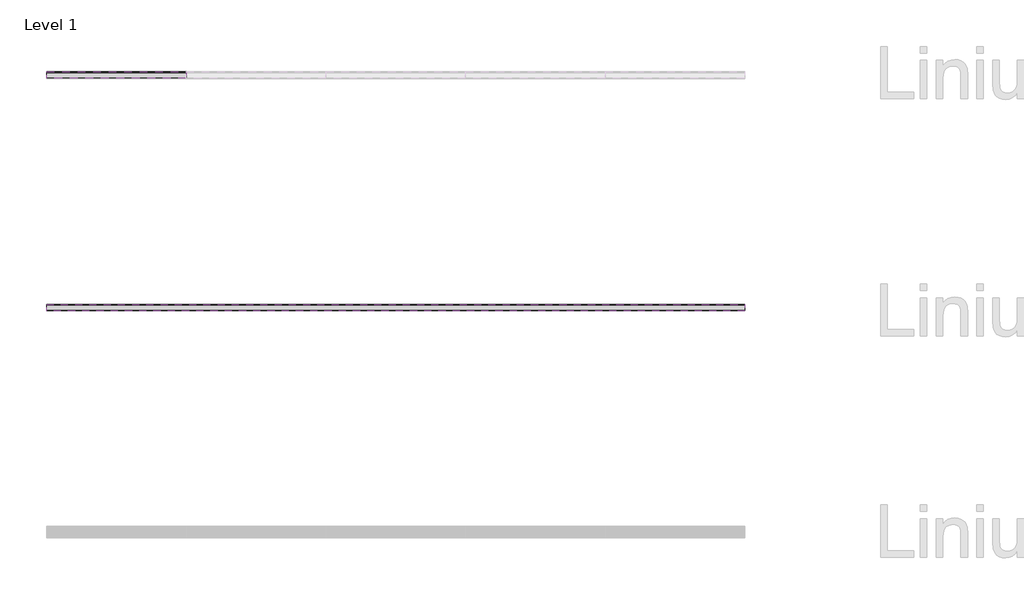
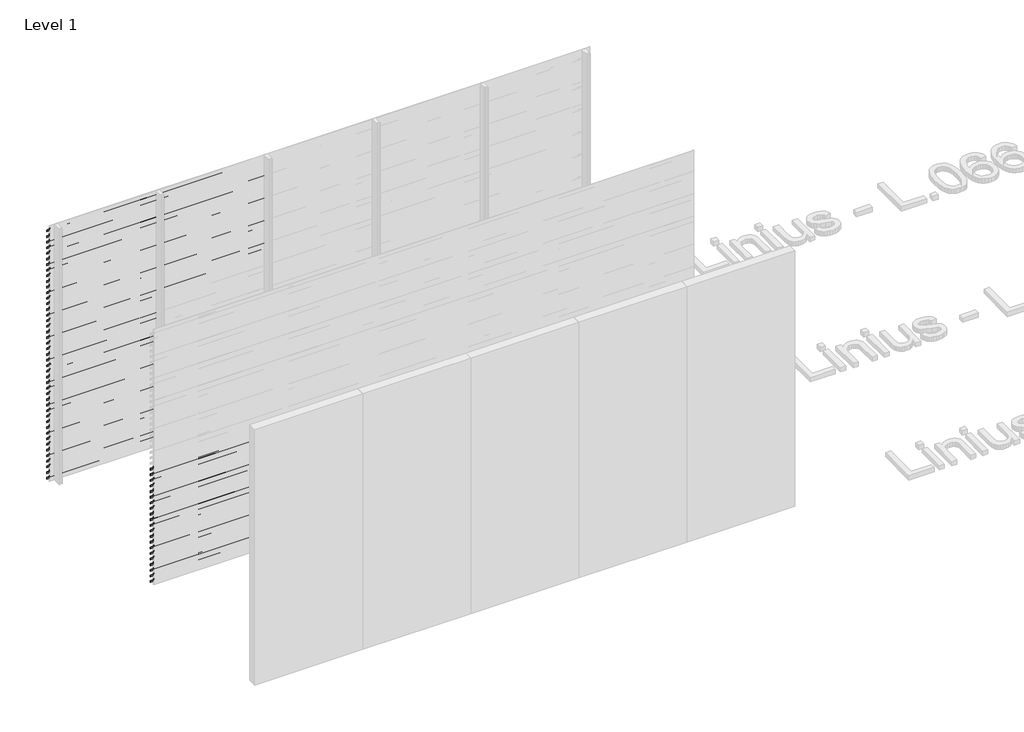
# One storey, part 80 of 540: 85 proxies.
"""IFC4 building model written with IfcOpenShell, lengths in millimetres."""

from ifc_helpers import new_model, si_unit, frame, origin, place, context, project, spatial, polyline, outline, extrude, element, save

model = new_model("IFC4")

# Units and contexts
model_context = context("Model", 3, world=origin())
ifc_project = project(units=[si_unit("LENGTHUNIT", "METRE", prefix="MILLI")], contexts=[model_context])

# Site, building, storey
site = spatial("IfcSite", under=ifc_project)
building = spatial("IfcBuilding", under=site)
storey = spatial("IfcBuildingStorey", under=building, Name="Level 1", Elevation=0.0)

# Proxies
placement = place(None, origin())
element("IfcBuildingElementProxy", 1, Name="Wall Sweeps", at=placement, inside=storey, context=model_context, shape_type="SweptSolid", body=[
    extrude(outline(polyline([(51581.0540136, 2913.5), (51581.0540136, 2893.5), (51579.8040136, 2894.2216933), (51579.8040136, 2912.7872415), (51526.0540136, 2950.3158044), (51526.0540136, 2970.0), (51527.3040136, 2970.0), (51527.3040136, 2951.0285629), (51581.0540136, 2913.5)])), frame((466.6208097, 0.0, 0.0), z_axis=(1.0, 0.0, 0.0), x_axis=(0.0, 1.0, 0.0)), (0.0, 0.0, 1.0), 1200.0000002),
])
element("IfcBuildingElementProxy", 2, Name="Wall Sweeps", at=placement, inside=storey, context=model_context, shape_type="SweptSolid", body=[
    extrude(outline(polyline([(51581.0540136, 2847.5), (51581.0540136, 2827.5), (51579.8040136, 2828.2216933), (51579.8040136, 2846.7872415), (51526.0540136, 2884.3158044), (51526.0540136, 2904.0), (51527.3040136, 2904.0), (51527.3040136, 2885.0285629), (51581.0540136, 2847.5)])), frame((466.6208097, 0.0, 0.0), z_axis=(1.0, 0.0, 0.0), x_axis=(0.0, 1.0, 0.0)), (0.0, 0.0, 1.0), 1200.0000002),
])
element("IfcBuildingElementProxy", 3, Name="Wall Sweeps", at=placement, inside=storey, context=model_context, shape_type="SweptSolid", body=[
    extrude(outline(polyline([(51581.0540136, 2781.5), (51581.0540136, 2761.5), (51579.8040136, 2762.2216933), (51579.8040136, 2780.7872415), (51526.0540136, 2818.3158044), (51526.0540136, 2838.0), (51527.3040136, 2838.0), (51527.3040136, 2819.0285629), (51581.0540136, 2781.5)])), frame((466.6208097, 0.0, 0.0), z_axis=(1.0, 0.0, 0.0), x_axis=(0.0, 1.0, 0.0)), (0.0, 0.0, 1.0), 1200.0000002),
])
element("IfcBuildingElementProxy", 4, Name="Wall Sweeps", at=placement, inside=storey, context=model_context, shape_type="SweptSolid", body=[
    extrude(outline(polyline([(51581.0540136, 2715.5), (51581.0540136, 2695.5), (51579.8040136, 2696.2216933), (51579.8040136, 2714.7872415), (51526.0540136, 2752.3158044), (51526.0540136, 2772.0), (51527.3040136, 2772.0), (51527.3040136, 2753.0285629), (51581.0540136, 2715.5)])), frame((466.6208097, 0.0, 0.0), z_axis=(1.0, 0.0, 0.0), x_axis=(0.0, 1.0, 0.0)), (0.0, 0.0, 1.0), 1200.0000002),
])
element("IfcBuildingElementProxy", 5, Name="Wall Sweeps", at=placement, inside=storey, context=model_context, shape_type="SweptSolid", body=[
    extrude(outline(polyline([(51581.0540136, 2649.5), (51581.0540136, 2629.5), (51579.8040136, 2630.2216933), (51579.8040136, 2648.7872415), (51526.0540136, 2686.3158044), (51526.0540136, 2706.0), (51527.3040136, 2706.0), (51527.3040136, 2687.0285629), (51581.0540136, 2649.5)])), frame((466.6208097, 0.0, 0.0), z_axis=(1.0, 0.0, 0.0), x_axis=(0.0, 1.0, 0.0)), (0.0, 0.0, 1.0), 1200.0000002),
])
element("IfcBuildingElementProxy", 6, Name="Wall Sweeps", at=placement, inside=storey, context=model_context, shape_type="SweptSolid", body=[
    extrude(outline(polyline([(51581.0540136, 2583.5), (51581.0540136, 2563.5), (51579.8040136, 2564.2216933), (51579.8040136, 2582.7872415), (51526.0540136, 2620.3158044), (51526.0540136, 2640.0), (51527.3040136, 2640.0), (51527.3040136, 2621.0285629), (51581.0540136, 2583.5)])), frame((466.6208097, 0.0, 0.0), z_axis=(1.0, 0.0, 0.0), x_axis=(0.0, 1.0, 0.0)), (0.0, 0.0, 1.0), 1200.0000002),
])
element("IfcBuildingElementProxy", 7, Name="Wall Sweeps", at=placement, inside=storey, context=model_context, shape_type="SweptSolid", body=[
    extrude(outline(polyline([(51581.0540136, 2517.5), (51581.0540136, 2497.5), (51579.8040136, 2498.2216933), (51579.8040136, 2516.7872415), (51526.0540136, 2554.3158044), (51526.0540136, 2574.0), (51527.3040136, 2574.0), (51527.3040136, 2555.0285629), (51581.0540136, 2517.5)])), frame((466.6208097, 0.0, 0.0), z_axis=(1.0, 0.0, 0.0), x_axis=(0.0, 1.0, 0.0)), (0.0, 0.0, 1.0), 1200.0000002),
])
element("IfcBuildingElementProxy", 8, Name="Wall Sweeps", at=placement, inside=storey, context=model_context, shape_type="SweptSolid", body=[
    extrude(outline(polyline([(51581.0540136, 2451.5), (51581.0540136, 2431.5), (51579.8040136, 2432.2216933), (51579.8040136, 2450.7872415), (51526.0540136, 2488.3158044), (51526.0540136, 2508.0), (51527.3040136, 2508.0), (51527.3040136, 2489.0285629), (51581.0540136, 2451.5)])), frame((466.6208097, 0.0, 0.0), z_axis=(1.0, 0.0, 0.0), x_axis=(0.0, 1.0, 0.0)), (0.0, 0.0, 1.0), 1200.0000002),
])
element("IfcBuildingElementProxy", 9, Name="Wall Sweeps", at=placement, inside=storey, context=model_context, shape_type="SweptSolid", body=[
    extrude(outline(polyline([(51581.0540136, 2385.5), (51581.0540136, 2365.5), (51579.8040136, 2366.2216933), (51579.8040136, 2384.7872415), (51526.0540136, 2422.3158044), (51526.0540136, 2442.0), (51527.3040136, 2442.0), (51527.3040136, 2423.0285629), (51581.0540136, 2385.5)])), frame((466.6208097, 0.0, 0.0), z_axis=(1.0, 0.0, 0.0), x_axis=(0.0, 1.0, 0.0)), (0.0, 0.0, 1.0), 1200.0000002),
])
element("IfcBuildingElementProxy", 10, Name="Wall Sweeps", at=placement, inside=storey, context=model_context, shape_type="SweptSolid", body=[
    extrude(outline(polyline([(51581.0540136, 2319.5), (51581.0540136, 2299.5), (51579.8040136, 2300.2216933), (51579.8040136, 2318.7872415), (51526.0540136, 2356.3158044), (51526.0540136, 2376.0), (51527.3040136, 2376.0), (51527.3040136, 2357.0285629), (51581.0540136, 2319.5)])), frame((466.6208097, 0.0, 0.0), z_axis=(1.0, 0.0, 0.0), x_axis=(0.0, 1.0, 0.0)), (0.0, 0.0, 1.0), 1200.0000002),
])
element("IfcBuildingElementProxy", 11, Name="Wall Sweeps", at=placement, inside=storey, context=model_context, shape_type="SweptSolid", body=[
    extrude(outline(polyline([(51581.0540136, 2253.5), (51581.0540136, 2233.5), (51579.8040136, 2234.2216933), (51579.8040136, 2252.7872415), (51526.0540136, 2290.3158044), (51526.0540136, 2310.0), (51527.3040136, 2310.0), (51527.3040136, 2291.0285629), (51581.0540136, 2253.5)])), frame((466.6208097, 0.0, 0.0), z_axis=(1.0, 0.0, 0.0), x_axis=(0.0, 1.0, 0.0)), (0.0, 0.0, 1.0), 1200.0000002),
])
element("IfcBuildingElementProxy", 12, Name="Wall Sweeps", at=placement, inside=storey, context=model_context, shape_type="SweptSolid", body=[
    extrude(outline(polyline([(51581.0540136, 2187.5), (51581.0540136, 2167.5), (51579.8040136, 2168.2216933), (51579.8040136, 2186.7872415), (51526.0540136, 2224.3158044), (51526.0540136, 2244.0), (51527.3040136, 2244.0), (51527.3040136, 2225.0285629), (51581.0540136, 2187.5)])), frame((466.6208097, 0.0, 0.0), z_axis=(1.0, 0.0, 0.0), x_axis=(0.0, 1.0, 0.0)), (0.0, 0.0, 1.0), 1200.0000002),
])
element("IfcBuildingElementProxy", 13, Name="Wall Sweeps", at=placement, inside=storey, context=model_context, shape_type="SweptSolid", body=[
    extrude(outline(polyline([(51581.0540136, 2121.5), (51581.0540136, 2101.5), (51579.8040136, 2102.2216933), (51579.8040136, 2120.7872415), (51526.0540136, 2158.3158044), (51526.0540136, 2178.0), (51527.3040136, 2178.0), (51527.3040136, 2159.0285629), (51581.0540136, 2121.5)])), frame((466.6208097, 0.0, 0.0), z_axis=(1.0, 0.0, 0.0), x_axis=(0.0, 1.0, 0.0)), (0.0, 0.0, 1.0), 1200.0000002),
])
element("IfcBuildingElementProxy", 14, Name="Wall Sweeps", at=placement, inside=storey, context=model_context, shape_type="SweptSolid", body=[
    extrude(outline(polyline([(51581.0540136, 2055.5), (51581.0540136, 2035.5), (51579.8040136, 2036.2216933), (51579.8040136, 2054.7872415), (51526.0540136, 2092.3158044), (51526.0540136, 2112.0), (51527.3040136, 2112.0), (51527.3040136, 2093.0285629), (51581.0540136, 2055.5)])), frame((466.6208097, 0.0, 0.0), z_axis=(1.0, 0.0, 0.0), x_axis=(0.0, 1.0, 0.0)), (0.0, 0.0, 1.0), 1200.0000002),
])
element("IfcBuildingElementProxy", 15, Name="Wall Sweeps", at=placement, inside=storey, context=model_context, shape_type="SweptSolid", body=[
    extrude(outline(polyline([(51581.0540136, 1989.5), (51581.0540136, 1969.5), (51579.8040136, 1970.2216933), (51579.8040136, 1988.7872415), (51526.0540136, 2026.3158044), (51526.0540136, 2046.0), (51527.3040136, 2046.0), (51527.3040136, 2027.0285629), (51581.0540136, 1989.5)])), frame((466.6208097, 0.0, 0.0), z_axis=(1.0, 0.0, 0.0), x_axis=(0.0, 1.0, 0.0)), (0.0, 0.0, 1.0), 1200.0000002),
])
element("IfcBuildingElementProxy", 16, Name="Wall Sweeps", at=placement, inside=storey, context=model_context, shape_type="SweptSolid", body=[
    extrude(outline(polyline([(51581.0540136, 1923.5), (51581.0540136, 1903.5), (51579.8040136, 1904.2216933), (51579.8040136, 1922.7872415), (51526.0540136, 1960.3158044), (51526.0540136, 1980.0), (51527.3040136, 1980.0), (51527.3040136, 1961.0285629), (51581.0540136, 1923.5)])), frame((466.6208097, 0.0, 0.0), z_axis=(1.0, 0.0, 0.0), x_axis=(0.0, 1.0, 0.0)), (0.0, 0.0, 1.0), 1200.0000002),
])
element("IfcBuildingElementProxy", 17, Name="Wall Sweeps", at=placement, inside=storey, context=model_context, shape_type="SweptSolid", body=[
    extrude(outline(polyline([(51581.0540136, 1857.5), (51581.0540136, 1837.5), (51579.8040136, 1838.2216933), (51579.8040136, 1856.7872415), (51526.0540136, 1894.3158044), (51526.0540136, 1914.0), (51527.3040136, 1914.0), (51527.3040136, 1895.0285629), (51581.0540136, 1857.5)])), frame((466.6208097, 0.0, 0.0), z_axis=(1.0, 0.0, 0.0), x_axis=(0.0, 1.0, 0.0)), (0.0, 0.0, 1.0), 1200.0000002),
])
element("IfcBuildingElementProxy", 18, Name="Wall Sweeps", at=placement, inside=storey, context=model_context, shape_type="SweptSolid", body=[
    extrude(outline(polyline([(51581.0540136, 1791.5), (51581.0540136, 1771.5), (51579.8040136, 1772.2216933), (51579.8040136, 1790.7872415), (51526.0540136, 1828.3158044), (51526.0540136, 1848.0), (51527.3040136, 1848.0), (51527.3040136, 1829.0285629), (51581.0540136, 1791.5)])), frame((466.6208097, 0.0, 0.0), z_axis=(1.0, 0.0, 0.0), x_axis=(0.0, 1.0, 0.0)), (0.0, 0.0, 1.0), 1200.0000002),
])
element("IfcBuildingElementProxy", 19, Name="Wall Sweeps", at=placement, inside=storey, context=model_context, shape_type="SweptSolid", body=[
    extrude(outline(polyline([(51581.0540136, 1725.5), (51581.0540136, 1705.5), (51579.8040136, 1706.2216933), (51579.8040136, 1724.7872415), (51526.0540136, 1762.3158044), (51526.0540136, 1782.0), (51527.3040136, 1782.0), (51527.3040136, 1763.0285629), (51581.0540136, 1725.5)])), frame((466.6208097, 0.0, 0.0), z_axis=(1.0, 0.0, 0.0), x_axis=(0.0, 1.0, 0.0)), (0.0, 0.0, 1.0), 1200.0000002),
])
element("IfcBuildingElementProxy", 20, Name="Wall Sweeps", at=placement, inside=storey, context=model_context, shape_type="SweptSolid", body=[
    extrude(outline(polyline([(51581.0540136, 1659.5), (51581.0540136, 1639.5), (51579.8040136, 1640.2216933), (51579.8040136, 1658.7872415), (51526.0540136, 1696.3158044), (51526.0540136, 1716.0), (51527.3040136, 1716.0), (51527.3040136, 1697.0285629), (51581.0540136, 1659.5)])), frame((466.6208097, 0.0, 0.0), z_axis=(1.0, 0.0, 0.0), x_axis=(0.0, 1.0, 0.0)), (0.0, 0.0, 1.0), 1200.0000002),
])
element("IfcBuildingElementProxy", 21, Name="Wall Sweeps", at=placement, inside=storey, context=model_context, shape_type="SweptSolid", body=[
    extrude(outline(polyline([(51581.0540136, 1593.5), (51581.0540136, 1573.5), (51579.8040136, 1574.2216933), (51579.8040136, 1592.7872415), (51526.0540136, 1630.3158044), (51526.0540136, 1650.0), (51527.3040136, 1650.0), (51527.3040136, 1631.0285629), (51581.0540136, 1593.5)])), frame((466.6208097, 0.0, 0.0), z_axis=(1.0, 0.0, 0.0), x_axis=(0.0, 1.0, 0.0)), (0.0, 0.0, 1.0), 1200.0000002),
])
element("IfcBuildingElementProxy", 22, Name="Wall Sweeps", at=placement, inside=storey, context=model_context, shape_type="SweptSolid", body=[
    extrude(outline(polyline([(51581.0540136, 1527.5), (51581.0540136, 1507.5), (51579.8040136, 1508.2216933), (51579.8040136, 1526.7872415), (51526.0540136, 1564.3158044), (51526.0540136, 1584.0), (51527.3040136, 1584.0), (51527.3040136, 1565.0285629), (51581.0540136, 1527.5)])), frame((466.6208097, 0.0, 0.0), z_axis=(1.0, 0.0, 0.0), x_axis=(0.0, 1.0, 0.0)), (0.0, 0.0, 1.0), 1200.0000002),
])
element("IfcBuildingElementProxy", 23, Name="Wall Sweeps", at=placement, inside=storey, context=model_context, shape_type="SweptSolid", body=[
    extrude(outline(polyline([(51581.0540136, 1461.5), (51581.0540136, 1441.5), (51579.8040136, 1442.2216933), (51579.8040136, 1460.7872415), (51526.0540136, 1498.3158044), (51526.0540136, 1518.0), (51527.3040136, 1518.0), (51527.3040136, 1499.0285629), (51581.0540136, 1461.5)])), frame((466.6208097, 0.0, 0.0), z_axis=(1.0, 0.0, 0.0), x_axis=(0.0, 1.0, 0.0)), (0.0, 0.0, 1.0), 1200.0000002),
])
element("IfcBuildingElementProxy", 24, Name="Wall Sweeps", at=placement, inside=storey, context=model_context, shape_type="SweptSolid", body=[
    extrude(outline(polyline([(51581.0540136, 1395.5), (51581.0540136, 1375.5), (51579.8040136, 1376.2216933), (51579.8040136, 1394.7872415), (51526.0540136, 1432.3158044), (51526.0540136, 1452.0), (51527.3040136, 1452.0), (51527.3040136, 1433.0285629), (51581.0540136, 1395.5)])), frame((466.6208097, 0.0, 0.0), z_axis=(1.0, 0.0, 0.0), x_axis=(0.0, 1.0, 0.0)), (0.0, 0.0, 1.0), 1200.0000002),
])
element("IfcBuildingElementProxy", 25, Name="Wall Sweeps", at=placement, inside=storey, context=model_context, shape_type="SweptSolid", body=[
    extrude(outline(polyline([(51581.0540136, 1329.5), (51581.0540136, 1309.5), (51579.8040136, 1310.2216933), (51579.8040136, 1328.7872415), (51526.0540136, 1366.3158044), (51526.0540136, 1386.0), (51527.3040136, 1386.0), (51527.3040136, 1367.0285629), (51581.0540136, 1329.5)])), frame((466.6208097, 0.0, 0.0), z_axis=(1.0, 0.0, 0.0), x_axis=(0.0, 1.0, 0.0)), (0.0, 0.0, 1.0), 1200.0000002),
])
element("IfcBuildingElementProxy", 26, Name="Wall Sweeps", at=placement, inside=storey, context=model_context, shape_type="SweptSolid", body=[
    extrude(outline(polyline([(51581.0540136, 1263.5), (51581.0540136, 1243.5), (51579.8040136, 1244.2216933), (51579.8040136, 1262.7872415), (51526.0540136, 1300.3158044), (51526.0540136, 1320.0), (51527.3040136, 1320.0), (51527.3040136, 1301.0285629), (51581.0540136, 1263.5)])), frame((466.6208097, 0.0, 0.0), z_axis=(1.0, 0.0, 0.0), x_axis=(0.0, 1.0, 0.0)), (0.0, 0.0, 1.0), 1200.0000002),
])
element("IfcBuildingElementProxy", 27, Name="Wall Sweeps", at=placement, inside=storey, context=model_context, shape_type="SweptSolid", body=[
    extrude(outline(polyline([(51581.0540136, 1197.5), (51581.0540136, 1177.5), (51579.8040136, 1178.2216933), (51579.8040136, 1196.7872415), (51526.0540136, 1234.3158044), (51526.0540136, 1254.0), (51527.3040136, 1254.0), (51527.3040136, 1235.0285629), (51581.0540136, 1197.5)])), frame((466.6208097, 0.0, 0.0), z_axis=(1.0, 0.0, 0.0), x_axis=(0.0, 1.0, 0.0)), (0.0, 0.0, 1.0), 1200.0000002),
])
element("IfcBuildingElementProxy", 28, Name="Wall Sweeps", at=placement, inside=storey, context=model_context, shape_type="SweptSolid", body=[
    extrude(outline(polyline([(51581.0540136, 1131.5), (51581.0540136, 1111.5), (51579.8040136, 1112.2216933), (51579.8040136, 1130.7872415), (51526.0540136, 1168.3158044), (51526.0540136, 1188.0), (51527.3040136, 1188.0), (51527.3040136, 1169.0285629), (51581.0540136, 1131.5)])), frame((466.6208097, 0.0, 0.0), z_axis=(1.0, 0.0, 0.0), x_axis=(0.0, 1.0, 0.0)), (0.0, 0.0, 1.0), 1200.0000002),
])
element("IfcBuildingElementProxy", 29, Name="Wall Sweeps", at=placement, inside=storey, context=model_context, shape_type="SweptSolid", body=[
    extrude(outline(polyline([(51581.0540136, 1065.5), (51581.0540136, 1045.5), (51579.8040136, 1046.2216933), (51579.8040136, 1064.7872415), (51526.0540136, 1102.3158044), (51526.0540136, 1122.0), (51527.3040136, 1122.0), (51527.3040136, 1103.0285629), (51581.0540136, 1065.5)])), frame((466.6208097, 0.0, 0.0), z_axis=(1.0, 0.0, 0.0), x_axis=(0.0, 1.0, 0.0)), (0.0, 0.0, 1.0), 1200.0000002),
])
element("IfcBuildingElementProxy", 30, Name="Wall Sweeps", at=placement, inside=storey, context=model_context, shape_type="SweptSolid", body=[
    extrude(outline(polyline([(51581.0540136, 999.5), (51581.0540136, 979.5), (51579.8040136, 980.2216933), (51579.8040136, 998.7872415), (51526.0540136, 1036.3158044), (51526.0540136, 1056.0), (51527.3040136, 1056.0), (51527.3040136, 1037.0285629), (51581.0540136, 999.5)])), frame((466.6208097, 0.0, 0.0), z_axis=(1.0, 0.0, 0.0), x_axis=(0.0, 1.0, 0.0)), (0.0, 0.0, 1.0), 1200.0000002),
])
element("IfcBuildingElementProxy", 31, Name="Wall Sweeps", at=placement, inside=storey, context=model_context, shape_type="SweptSolid", body=[
    extrude(outline(polyline([(51581.0540136, 933.5), (51581.0540136, 913.5), (51579.8040136, 914.2216933), (51579.8040136, 932.7872415), (51526.0540136, 970.3158044), (51526.0540136, 990.0), (51527.3040136, 990.0), (51527.3040136, 971.0285629), (51581.0540136, 933.5)])), frame((466.6208097, 0.0, 0.0), z_axis=(1.0, 0.0, 0.0), x_axis=(0.0, 1.0, 0.0)), (0.0, 0.0, 1.0), 1200.0000002),
])
element("IfcBuildingElementProxy", 32, Name="Wall Sweeps", at=placement, inside=storey, context=model_context, shape_type="SweptSolid", body=[
    extrude(outline(polyline([(51581.0540136, 867.5), (51581.0540136, 847.5), (51579.8040136, 848.2216933), (51579.8040136, 866.7872415), (51526.0540136, 904.3158044), (51526.0540136, 924.0), (51527.3040136, 924.0), (51527.3040136, 905.0285629), (51581.0540136, 867.5)])), frame((466.6208097, 0.0, 0.0), z_axis=(1.0, 0.0, 0.0), x_axis=(0.0, 1.0, 0.0)), (0.0, 0.0, 1.0), 1200.0000002),
])
element("IfcBuildingElementProxy", 33, Name="Wall Sweeps", at=placement, inside=storey, context=model_context, shape_type="SweptSolid", body=[
    extrude(outline(polyline([(51581.0540136, 801.5), (51581.0540136, 781.5), (51579.8040136, 782.2216933), (51579.8040136, 800.7872415), (51526.0540136, 838.3158044), (51526.0540136, 858.0), (51527.3040136, 858.0), (51527.3040136, 839.0285629), (51581.0540136, 801.5)])), frame((466.6208097, 0.0, 0.0), z_axis=(1.0, 0.0, 0.0), x_axis=(0.0, 1.0, 0.0)), (0.0, 0.0, 1.0), 1200.0000002),
])
element("IfcBuildingElementProxy", 34, Name="Wall Sweeps", at=placement, inside=storey, context=model_context, shape_type="SweptSolid", body=[
    extrude(outline(polyline([(51581.0540136, 735.5), (51581.0540136, 715.5), (51579.8040136, 716.2216933), (51579.8040136, 734.7872415), (51526.0540136, 772.3158044), (51526.0540136, 792.0), (51527.3040136, 792.0), (51527.3040136, 773.0285629), (51581.0540136, 735.5)])), frame((466.6208097, 0.0, 0.0), z_axis=(1.0, 0.0, 0.0), x_axis=(0.0, 1.0, 0.0)), (0.0, 0.0, 1.0), 1200.0000002),
])
element("IfcBuildingElementProxy", 35, Name="Wall Sweeps", at=placement, inside=storey, context=model_context, shape_type="SweptSolid", body=[
    extrude(outline(polyline([(51581.0540136, 669.5), (51581.0540136, 649.5), (51579.8040136, 650.2216933), (51579.8040136, 668.7872415), (51526.0540136, 706.3158044), (51526.0540136, 726.0), (51527.3040136, 726.0), (51527.3040136, 707.0285629), (51581.0540136, 669.5)])), frame((466.6208097, 0.0, 0.0), z_axis=(1.0, 0.0, 0.0), x_axis=(0.0, 1.0, 0.0)), (0.0, 0.0, 1.0), 1200.0000002),
])
element("IfcBuildingElementProxy", 36, Name="Wall Sweeps", at=placement, inside=storey, context=model_context, shape_type="SweptSolid", body=[
    extrude(outline(polyline([(51581.0540136, 603.5), (51581.0540136, 583.5), (51579.8040136, 584.2216933), (51579.8040136, 602.7872415), (51526.0540136, 640.3158044), (51526.0540136, 660.0), (51527.3040136, 660.0), (51527.3040136, 641.0285629), (51581.0540136, 603.5)])), frame((466.6208097, 0.0, 0.0), z_axis=(1.0, 0.0, 0.0), x_axis=(0.0, 1.0, 0.0)), (0.0, 0.0, 1.0), 1200.0000002),
])
element("IfcBuildingElementProxy", 37, Name="Wall Sweeps", at=placement, inside=storey, context=model_context, shape_type="SweptSolid", body=[
    extrude(outline(polyline([(51581.0540136, 537.5), (51581.0540136, 517.5), (51579.8040136, 518.2216933), (51579.8040136, 536.7872415), (51526.0540136, 574.3158044), (51526.0540136, 594.0), (51527.3040136, 594.0), (51527.3040136, 575.0285629), (51581.0540136, 537.5)])), frame((466.6208097, 0.0, 0.0), z_axis=(1.0, 0.0, 0.0), x_axis=(0.0, 1.0, 0.0)), (0.0, 0.0, 1.0), 1200.0000002),
])
element("IfcBuildingElementProxy", 38, Name="Wall Sweeps", at=placement, inside=storey, context=model_context, shape_type="SweptSolid", body=[
    extrude(outline(polyline([(51581.0540136, 471.5), (51581.0540136, 451.5), (51579.8040136, 452.2216933), (51579.8040136, 470.7872415), (51526.0540136, 508.3158044), (51526.0540136, 528.0), (51527.3040136, 528.0), (51527.3040136, 509.0285629), (51581.0540136, 471.5)])), frame((466.6208097, 0.0, 0.0), z_axis=(1.0, 0.0, 0.0), x_axis=(0.0, 1.0, 0.0)), (0.0, 0.0, 1.0), 1200.0000002),
])
element("IfcBuildingElementProxy", 39, Name="Wall Sweeps", at=placement, inside=storey, context=model_context, shape_type="SweptSolid", body=[
    extrude(outline(polyline([(51581.0540136, 405.5), (51581.0540136, 385.5), (51579.8040136, 386.2216933), (51579.8040136, 404.7872415), (51526.0540136, 442.3158044), (51526.0540136, 462.0), (51527.3040136, 462.0), (51527.3040136, 443.0285629), (51581.0540136, 405.5)])), frame((466.6208097, 0.0, 0.0), z_axis=(1.0, 0.0, 0.0), x_axis=(0.0, 1.0, 0.0)), (0.0, 0.0, 1.0), 1200.0000002),
])
element("IfcBuildingElementProxy", 40, Name="Wall Sweeps", at=placement, inside=storey, context=model_context, shape_type="SweptSolid", body=[
    extrude(outline(polyline([(51581.0540136, 339.5), (51581.0540136, 319.5), (51579.8040136, 320.2216933), (51579.8040136, 338.7872415), (51526.0540136, 376.3158044), (51526.0540136, 396.0), (51527.3040136, 396.0), (51527.3040136, 377.0285629), (51581.0540136, 339.5)])), frame((466.6208097, 0.0, 0.0), z_axis=(1.0, 0.0, 0.0), x_axis=(0.0, 1.0, 0.0)), (0.0, 0.0, 1.0), 1200.0000002),
])
element("IfcBuildingElementProxy", 41, Name="Wall Sweeps", at=placement, inside=storey, context=model_context, shape_type="SweptSolid", body=[
    extrude(outline(polyline([(51581.0540136, 273.5), (51581.0540136, 253.5), (51579.8040136, 254.2216933), (51579.8040136, 272.7872415), (51526.0540136, 310.3158044), (51526.0540136, 330.0), (51527.3040136, 330.0), (51527.3040136, 311.0285629), (51581.0540136, 273.5)])), frame((466.6208097, 0.0, 0.0), z_axis=(1.0, 0.0, 0.0), x_axis=(0.0, 1.0, 0.0)), (0.0, 0.0, 1.0), 1200.0000002),
])
element("IfcBuildingElementProxy", 42, Name="Wall Sweeps", at=placement, inside=storey, context=model_context, shape_type="SweptSolid", body=[
    extrude(outline(polyline([(51581.0540136, 207.5), (51581.0540136, 187.5), (51579.8040136, 188.2216933), (51579.8040136, 206.7872415), (51526.0540136, 244.3158044), (51526.0540136, 264.0), (51527.3040136, 264.0), (51527.3040136, 245.0285629), (51581.0540136, 207.5)])), frame((466.6208097, 0.0, 0.0), z_axis=(1.0, 0.0, 0.0), x_axis=(0.0, 1.0, 0.0)), (0.0, 0.0, 1.0), 1200.0000002),
])
element("IfcBuildingElementProxy", 43, Name="Wall Sweeps", at=placement, inside=storey, context=model_context, shape_type="SweptSolid", body=[
    extrude(outline(polyline([(51581.0540136, 141.5), (51581.0540136, 121.5), (51579.8040136, 122.2216933), (51579.8040136, 140.7872415), (51526.0540136, 178.3158044), (51526.0540136, 198.0), (51527.3040136, 198.0), (51527.3040136, 179.0285629), (51581.0540136, 141.5)])), frame((466.6208097, 0.0, 0.0), z_axis=(1.0, 0.0, 0.0), x_axis=(0.0, 1.0, 0.0)), (0.0, 0.0, 1.0), 1200.0000002),
])
element("IfcBuildingElementProxy", 44, Name="Wall Sweeps", at=placement, inside=storey, context=model_context, shape_type="SweptSolid", body=[
    extrude(outline(polyline([(51581.0540136, 75.5), (51581.0540136, 55.5), (51579.8040136, 56.2216933), (51579.8040136, 74.7872415), (51526.0540136, 112.3158044), (51526.0540136, 132.0), (51527.3040136, 132.0), (51527.3040136, 113.0285629), (51581.0540136, 75.5)])), frame((466.6208097, 0.0, 0.0), z_axis=(1.0, 0.0, 0.0), x_axis=(0.0, 1.0, 0.0)), (0.0, 0.0, 1.0), 1200.0000002),
])
element("IfcBuildingElementProxy", 45, Name="Wall Sweeps", at=placement, inside=storey, context=model_context, shape_type="SweptSolid", body=[
    extrude(outline(polyline([(51581.0540136, 9.5), (51581.0540136, -10.5), (51579.8040136, -9.7783067), (51579.8040136, 8.7872415), (51526.0540136, 46.3158044), (51526.0540136, 66.0), (51527.3040136, 66.0), (51527.3040136, 47.0285629), (51581.0540136, 9.5)])), frame((466.6208097, 0.0, 0.0), z_axis=(1.0, 0.0, 0.0), x_axis=(0.0, 1.0, 0.0)), (0.0, 0.0, 1.0), 1200.0000002),
])
element("IfcBuildingElementProxy", 46, Name="Wall Sweeps", at=placement, inside=storey, context=model_context, shape_type="SweptSolid", body=[
    extrude(outline(polyline([(51581.0540136, 2913.5), (51581.0540136, 2893.5), (51579.8040136, 2894.2216933), (51579.8040136, 2912.7872415), (51526.0540136, 2950.3158044), (51526.0540136, 2970.0), (51527.3040136, 2970.0), (51527.3040136, 2951.0285629), (51581.0540136, 2913.5)])), frame((1666.6208099, 0.0, 0.0), z_axis=(1.0, 0.0, 0.0), x_axis=(0.0, 1.0, 0.0)), (0.0, 0.0, 1.0), 1199.9999999),
])
element("IfcBuildingElementProxy", 47, Name="Wall Sweeps", at=placement, inside=storey, context=model_context, shape_type="SweptSolid", body=[
    extrude(outline(polyline([(51581.0540136, 2847.5), (51581.0540136, 2827.5), (51579.8040136, 2828.2216933), (51579.8040136, 2846.7872415), (51526.0540136, 2884.3158044), (51526.0540136, 2904.0), (51527.3040136, 2904.0), (51527.3040136, 2885.0285629), (51581.0540136, 2847.5)])), frame((1666.6208099, 0.0, 0.0), z_axis=(1.0, 0.0, 0.0), x_axis=(0.0, 1.0, 0.0)), (0.0, 0.0, 1.0), 1199.9999999),
])
element("IfcBuildingElementProxy", 48, Name="Wall Sweeps", at=placement, inside=storey, context=model_context, shape_type="SweptSolid", body=[
    extrude(outline(polyline([(51581.0540136, 2781.5), (51581.0540136, 2761.5), (51579.8040136, 2762.2216933), (51579.8040136, 2780.7872415), (51526.0540136, 2818.3158044), (51526.0540136, 2838.0), (51527.3040136, 2838.0), (51527.3040136, 2819.0285629), (51581.0540136, 2781.5)])), frame((1666.6208099, 0.0, 0.0), z_axis=(1.0, 0.0, 0.0), x_axis=(0.0, 1.0, 0.0)), (0.0, 0.0, 1.0), 1199.9999999),
])
element("IfcBuildingElementProxy", 49, Name="Wall Sweeps", at=placement, inside=storey, context=model_context, shape_type="SweptSolid", body=[
    extrude(outline(polyline([(51581.0540136, 2715.5), (51581.0540136, 2695.5), (51579.8040136, 2696.2216933), (51579.8040136, 2714.7872415), (51526.0540136, 2752.3158044), (51526.0540136, 2772.0), (51527.3040136, 2772.0), (51527.3040136, 2753.0285629), (51581.0540136, 2715.5)])), frame((1666.6208099, 0.0, 0.0), z_axis=(1.0, 0.0, 0.0), x_axis=(0.0, 1.0, 0.0)), (0.0, 0.0, 1.0), 1199.9999999),
])
element("IfcBuildingElementProxy", 50, Name="Wall Sweeps", at=placement, inside=storey, context=model_context, shape_type="SweptSolid", body=[
    extrude(outline(polyline([(51581.0540136, 2649.5), (51581.0540136, 2629.5), (51579.8040136, 2630.2216933), (51579.8040136, 2648.7872415), (51526.0540136, 2686.3158044), (51526.0540136, 2706.0), (51527.3040136, 2706.0), (51527.3040136, 2687.0285629), (51581.0540136, 2649.5)])), frame((1666.6208099, 0.0, 0.0), z_axis=(1.0, 0.0, 0.0), x_axis=(0.0, 1.0, 0.0)), (0.0, 0.0, 1.0), 1199.9999999),
])
element("IfcBuildingElementProxy", 51, Name="Wall Sweeps", at=placement, inside=storey, context=model_context, shape_type="SweptSolid", body=[
    extrude(outline(polyline([(51581.0540136, 2583.5), (51581.0540136, 2563.5), (51579.8040136, 2564.2216933), (51579.8040136, 2582.7872415), (51526.0540136, 2620.3158044), (51526.0540136, 2640.0), (51527.3040136, 2640.0), (51527.3040136, 2621.0285629), (51581.0540136, 2583.5)])), frame((1666.6208099, 0.0, 0.0), z_axis=(1.0, 0.0, 0.0), x_axis=(0.0, 1.0, 0.0)), (0.0, 0.0, 1.0), 1199.9999999),
])
element("IfcBuildingElementProxy", 52, Name="Wall Sweeps", at=placement, inside=storey, context=model_context, shape_type="SweptSolid", body=[
    extrude(outline(polyline([(51581.0540136, 2517.5), (51581.0540136, 2497.5), (51579.8040136, 2498.2216933), (51579.8040136, 2516.7872415), (51526.0540136, 2554.3158044), (51526.0540136, 2574.0), (51527.3040136, 2574.0), (51527.3040136, 2555.0285629), (51581.0540136, 2517.5)])), frame((1666.6208099, 0.0, 0.0), z_axis=(1.0, 0.0, 0.0), x_axis=(0.0, 1.0, 0.0)), (0.0, 0.0, 1.0), 1199.9999999),
])
element("IfcBuildingElementProxy", 53, Name="Wall Sweeps", at=placement, inside=storey, context=model_context, shape_type="SweptSolid", body=[
    extrude(outline(polyline([(51581.0540136, 2451.5), (51581.0540136, 2431.5), (51579.8040136, 2432.2216933), (51579.8040136, 2450.7872415), (51526.0540136, 2488.3158044), (51526.0540136, 2508.0), (51527.3040136, 2508.0), (51527.3040136, 2489.0285629), (51581.0540136, 2451.5)])), frame((1666.6208099, 0.0, 0.0), z_axis=(1.0, 0.0, 0.0), x_axis=(0.0, 1.0, 0.0)), (0.0, 0.0, 1.0), 1199.9999999),
])
element("IfcBuildingElementProxy", 54, Name="Wall Sweeps", at=placement, inside=storey, context=model_context, shape_type="SweptSolid", body=[
    extrude(outline(polyline([(51581.0540136, 2385.5), (51581.0540136, 2365.5), (51579.8040136, 2366.2216933), (51579.8040136, 2384.7872415), (51526.0540136, 2422.3158044), (51526.0540136, 2442.0), (51527.3040136, 2442.0), (51527.3040136, 2423.0285629), (51581.0540136, 2385.5)])), frame((1666.6208099, 0.0, 0.0), z_axis=(1.0, 0.0, 0.0), x_axis=(0.0, 1.0, 0.0)), (0.0, 0.0, 1.0), 1199.9999999),
])
element("IfcBuildingElementProxy", 55, Name="Wall Sweeps", at=placement, inside=storey, context=model_context, shape_type="SweptSolid", body=[
    extrude(outline(polyline([(51581.0540136, 2319.5), (51581.0540136, 2299.5), (51579.8040136, 2300.2216933), (51579.8040136, 2318.7872415), (51526.0540136, 2356.3158044), (51526.0540136, 2376.0), (51527.3040136, 2376.0), (51527.3040136, 2357.0285629), (51581.0540136, 2319.5)])), frame((1666.6208099, 0.0, 0.0), z_axis=(1.0, 0.0, 0.0), x_axis=(0.0, 1.0, 0.0)), (0.0, 0.0, 1.0), 1199.9999999),
])
element("IfcBuildingElementProxy", 56, Name="Wall Sweeps", at=placement, inside=storey, context=model_context, shape_type="SweptSolid", body=[
    extrude(outline(polyline([(51581.0540136, 2253.5), (51581.0540136, 2233.5), (51579.8040136, 2234.2216933), (51579.8040136, 2252.7872415), (51526.0540136, 2290.3158044), (51526.0540136, 2310.0), (51527.3040136, 2310.0), (51527.3040136, 2291.0285629), (51581.0540136, 2253.5)])), frame((1666.6208099, 0.0, 0.0), z_axis=(1.0, 0.0, 0.0), x_axis=(0.0, 1.0, 0.0)), (0.0, 0.0, 1.0), 1199.9999999),
])
element("IfcBuildingElementProxy", 57, Name="Wall Sweeps", at=placement, inside=storey, context=model_context, shape_type="SweptSolid", body=[
    extrude(outline(polyline([(51581.0540136, 2187.5), (51581.0540136, 2167.5), (51579.8040136, 2168.2216933), (51579.8040136, 2186.7872415), (51526.0540136, 2224.3158044), (51526.0540136, 2244.0), (51527.3040136, 2244.0), (51527.3040136, 2225.0285629), (51581.0540136, 2187.5)])), frame((1666.6208099, 0.0, 0.0), z_axis=(1.0, 0.0, 0.0), x_axis=(0.0, 1.0, 0.0)), (0.0, 0.0, 1.0), 1199.9999999),
])
element("IfcBuildingElementProxy", 58, Name="Wall Sweeps", at=placement, inside=storey, context=model_context, shape_type="SweptSolid", body=[
    extrude(outline(polyline([(51581.0540136, 2121.5), (51581.0540136, 2101.5), (51579.8040136, 2102.2216933), (51579.8040136, 2120.7872415), (51526.0540136, 2158.3158044), (51526.0540136, 2178.0), (51527.3040136, 2178.0), (51527.3040136, 2159.0285629), (51581.0540136, 2121.5)])), frame((1666.6208099, 0.0, 0.0), z_axis=(1.0, 0.0, 0.0), x_axis=(0.0, 1.0, 0.0)), (0.0, 0.0, 1.0), 1199.9999999),
])
element("IfcBuildingElementProxy", 59, Name="Wall Sweeps", at=placement, inside=storey, context=model_context, shape_type="SweptSolid", body=[
    extrude(outline(polyline([(51581.0540136, 2055.5), (51581.0540136, 2035.5), (51579.8040136, 2036.2216933), (51579.8040136, 2054.7872415), (51526.0540136, 2092.3158044), (51526.0540136, 2112.0), (51527.3040136, 2112.0), (51527.3040136, 2093.0285629), (51581.0540136, 2055.5)])), frame((1666.6208099, 0.0, 0.0), z_axis=(1.0, 0.0, 0.0), x_axis=(0.0, 1.0, 0.0)), (0.0, 0.0, 1.0), 1199.9999999),
])
element("IfcBuildingElementProxy", 60, Name="Wall Sweeps", at=placement, inside=storey, context=model_context, shape_type="SweptSolid", body=[
    extrude(outline(polyline([(51581.0540136, 1989.5), (51581.0540136, 1969.5), (51579.8040136, 1970.2216933), (51579.8040136, 1988.7872415), (51526.0540136, 2026.3158044), (51526.0540136, 2046.0), (51527.3040136, 2046.0), (51527.3040136, 2027.0285629), (51581.0540136, 1989.5)])), frame((1666.6208099, 0.0, 0.0), z_axis=(1.0, 0.0, 0.0), x_axis=(0.0, 1.0, 0.0)), (0.0, 0.0, 1.0), 1199.9999999),
])
element("IfcBuildingElementProxy", 61, Name="Wall Sweeps", at=placement, inside=storey, context=model_context, shape_type="SweptSolid", body=[
    extrude(outline(polyline([(51581.0540136, 1923.5), (51581.0540136, 1903.5), (51579.8040136, 1904.2216933), (51579.8040136, 1922.7872415), (51526.0540136, 1960.3158044), (51526.0540136, 1980.0), (51527.3040136, 1980.0), (51527.3040136, 1961.0285629), (51581.0540136, 1923.5)])), frame((1666.6208099, 0.0, 0.0), z_axis=(1.0, 0.0, 0.0), x_axis=(0.0, 1.0, 0.0)), (0.0, 0.0, 1.0), 1199.9999999),
])
element("IfcBuildingElementProxy", 62, Name="Wall Sweeps", at=placement, inside=storey, context=model_context, shape_type="SweptSolid", body=[
    extrude(outline(polyline([(51581.0540136, 1857.5), (51581.0540136, 1837.5), (51579.8040136, 1838.2216933), (51579.8040136, 1856.7872415), (51526.0540136, 1894.3158044), (51526.0540136, 1914.0), (51527.3040136, 1914.0), (51527.3040136, 1895.0285629), (51581.0540136, 1857.5)])), frame((1666.6208099, 0.0, 0.0), z_axis=(1.0, 0.0, 0.0), x_axis=(0.0, 1.0, 0.0)), (0.0, 0.0, 1.0), 1199.9999999),
])
element("IfcBuildingElementProxy", 63, Name="Wall Sweeps", at=placement, inside=storey, context=model_context, shape_type="SweptSolid", body=[
    extrude(outline(polyline([(51581.0540136, 1791.5), (51581.0540136, 1771.5), (51579.8040136, 1772.2216933), (51579.8040136, 1790.7872415), (51526.0540136, 1828.3158044), (51526.0540136, 1848.0), (51527.3040136, 1848.0), (51527.3040136, 1829.0285629), (51581.0540136, 1791.5)])), frame((1666.6208099, 0.0, 0.0), z_axis=(1.0, 0.0, 0.0), x_axis=(0.0, 1.0, 0.0)), (0.0, 0.0, 1.0), 1199.9999999),
])
element("IfcBuildingElementProxy", 64, Name="Wall Sweeps", at=placement, inside=storey, context=model_context, shape_type="SweptSolid", body=[
    extrude(outline(polyline([(51581.0540136, 1725.5), (51581.0540136, 1705.5), (51579.8040136, 1706.2216933), (51579.8040136, 1724.7872415), (51526.0540136, 1762.3158044), (51526.0540136, 1782.0), (51527.3040136, 1782.0), (51527.3040136, 1763.0285629), (51581.0540136, 1725.5)])), frame((1666.6208099, 0.0, 0.0), z_axis=(1.0, 0.0, 0.0), x_axis=(0.0, 1.0, 0.0)), (0.0, 0.0, 1.0), 1199.9999999),
])
element("IfcBuildingElementProxy", 65, Name="Wall Sweeps", at=placement, inside=storey, context=model_context, shape_type="SweptSolid", body=[
    extrude(outline(polyline([(49581.0540136, 1329.5), (49581.0540136, 1309.5), (49579.8040136, 1310.2216933), (49579.8040136, 1328.7872415), (49526.0540136, 1366.3158044), (49526.0540136, 1386.0), (49527.3040136, 1386.0), (49527.3040136, 1367.0285629), (49581.0540136, 1329.5)])), frame((466.6208097, 0.0, 0.0), z_axis=(1.0, 0.0, 0.0), x_axis=(0.0, 1.0, 0.0)), (0.0, 0.0, 1.0), 6000.0),
])
element("IfcBuildingElementProxy", 66, Name="Wall Sweeps", at=placement, inside=storey, context=model_context, shape_type="SweptSolid", body=[
    extrude(outline(polyline([(49581.0540136, 1263.5), (49581.0540136, 1243.5), (49579.8040136, 1244.2216933), (49579.8040136, 1262.7872415), (49526.0540136, 1300.3158044), (49526.0540136, 1320.0), (49527.3040136, 1320.0), (49527.3040136, 1301.0285629), (49581.0540136, 1263.5)])), frame((466.6208097, 0.0, 0.0), z_axis=(1.0, 0.0, 0.0), x_axis=(0.0, 1.0, 0.0)), (0.0, 0.0, 1.0), 6000.0),
])
element("IfcBuildingElementProxy", 67, Name="Wall Sweeps", at=placement, inside=storey, context=model_context, shape_type="SweptSolid", body=[
    extrude(outline(polyline([(49581.0540136, 1197.5), (49581.0540136, 1177.5), (49579.8040136, 1178.2216933), (49579.8040136, 1196.7872415), (49526.0540136, 1234.3158044), (49526.0540136, 1254.0), (49527.3040136, 1254.0), (49527.3040136, 1235.0285629), (49581.0540136, 1197.5)])), frame((466.6208097, 0.0, 0.0), z_axis=(1.0, 0.0, 0.0), x_axis=(0.0, 1.0, 0.0)), (0.0, 0.0, 1.0), 6000.0),
])
element("IfcBuildingElementProxy", 68, Name="Wall Sweeps", at=placement, inside=storey, context=model_context, shape_type="SweptSolid", body=[
    extrude(outline(polyline([(49581.0540136, 1131.5), (49581.0540136, 1111.5), (49579.8040136, 1112.2216933), (49579.8040136, 1130.7872415), (49526.0540136, 1168.3158044), (49526.0540136, 1188.0), (49527.3040136, 1188.0), (49527.3040136, 1169.0285629), (49581.0540136, 1131.5)])), frame((466.6208097, 0.0, 0.0), z_axis=(1.0, 0.0, 0.0), x_axis=(0.0, 1.0, 0.0)), (0.0, 0.0, 1.0), 6000.0),
])
element("IfcBuildingElementProxy", 69, Name="Wall Sweeps", at=placement, inside=storey, context=model_context, shape_type="SweptSolid", body=[
    extrude(outline(polyline([(49581.0540136, 1065.5), (49581.0540136, 1045.5), (49579.8040136, 1046.2216933), (49579.8040136, 1064.7872415), (49526.0540136, 1102.3158044), (49526.0540136, 1122.0), (49527.3040136, 1122.0), (49527.3040136, 1103.0285629), (49581.0540136, 1065.5)])), frame((466.6208097, 0.0, 0.0), z_axis=(1.0, 0.0, 0.0), x_axis=(0.0, 1.0, 0.0)), (0.0, 0.0, 1.0), 6000.0),
])
element("IfcBuildingElementProxy", 70, Name="Wall Sweeps", at=placement, inside=storey, context=model_context, shape_type="SweptSolid", body=[
    extrude(outline(polyline([(49581.0540136, 999.5), (49581.0540136, 979.5), (49579.8040136, 980.2216933), (49579.8040136, 998.7872415), (49526.0540136, 1036.3158044), (49526.0540136, 1056.0), (49527.3040136, 1056.0), (49527.3040136, 1037.0285629), (49581.0540136, 999.5)])), frame((466.6208097, 0.0, 0.0), z_axis=(1.0, 0.0, 0.0), x_axis=(0.0, 1.0, 0.0)), (0.0, 0.0, 1.0), 6000.0),
])
element("IfcBuildingElementProxy", 71, Name="Wall Sweeps", at=placement, inside=storey, context=model_context, shape_type="SweptSolid", body=[
    extrude(outline(polyline([(49581.0540136, 933.5), (49581.0540136, 913.5), (49579.8040136, 914.2216933), (49579.8040136, 932.7872415), (49526.0540136, 970.3158044), (49526.0540136, 990.0), (49527.3040136, 990.0), (49527.3040136, 971.0285629), (49581.0540136, 933.5)])), frame((466.6208097, 0.0, 0.0), z_axis=(1.0, 0.0, 0.0), x_axis=(0.0, 1.0, 0.0)), (0.0, 0.0, 1.0), 6000.0),
])
element("IfcBuildingElementProxy", 72, Name="Wall Sweeps", at=placement, inside=storey, context=model_context, shape_type="SweptSolid", body=[
    extrude(outline(polyline([(49581.0540136, 867.5), (49581.0540136, 847.5), (49579.8040136, 848.2216933), (49579.8040136, 866.7872415), (49526.0540136, 904.3158044), (49526.0540136, 924.0), (49527.3040136, 924.0), (49527.3040136, 905.0285629), (49581.0540136, 867.5)])), frame((466.6208097, 0.0, 0.0), z_axis=(1.0, 0.0, 0.0), x_axis=(0.0, 1.0, 0.0)), (0.0, 0.0, 1.0), 6000.0),
])
element("IfcBuildingElementProxy", 73, Name="Wall Sweeps", at=placement, inside=storey, context=model_context, shape_type="SweptSolid", body=[
    extrude(outline(polyline([(49581.0540136, 801.5), (49581.0540136, 781.5), (49579.8040136, 782.2216933), (49579.8040136, 800.7872415), (49526.0540136, 838.3158044), (49526.0540136, 858.0), (49527.3040136, 858.0), (49527.3040136, 839.0285629), (49581.0540136, 801.5)])), frame((466.6208097, 0.0, 0.0), z_axis=(1.0, 0.0, 0.0), x_axis=(0.0, 1.0, 0.0)), (0.0, 0.0, 1.0), 6000.0),
])
element("IfcBuildingElementProxy", 74, Name="Wall Sweeps", at=placement, inside=storey, context=model_context, shape_type="SweptSolid", body=[
    extrude(outline(polyline([(49581.0540136, 735.5), (49581.0540136, 715.5), (49579.8040136, 716.2216933), (49579.8040136, 734.7872415), (49526.0540136, 772.3158044), (49526.0540136, 792.0), (49527.3040136, 792.0), (49527.3040136, 773.0285629), (49581.0540136, 735.5)])), frame((466.6208097, 0.0, 0.0), z_axis=(1.0, 0.0, 0.0), x_axis=(0.0, 1.0, 0.0)), (0.0, 0.0, 1.0), 6000.0),
])
element("IfcBuildingElementProxy", 75, Name="Wall Sweeps", at=placement, inside=storey, context=model_context, shape_type="SweptSolid", body=[
    extrude(outline(polyline([(49581.0540136, 669.5), (49581.0540136, 649.5), (49579.8040136, 650.2216933), (49579.8040136, 668.7872415), (49526.0540136, 706.3158044), (49526.0540136, 726.0), (49527.3040136, 726.0), (49527.3040136, 707.0285629), (49581.0540136, 669.5)])), frame((466.6208097, 0.0, 0.0), z_axis=(1.0, 0.0, 0.0), x_axis=(0.0, 1.0, 0.0)), (0.0, 0.0, 1.0), 6000.0),
])
element("IfcBuildingElementProxy", 76, Name="Wall Sweeps", at=placement, inside=storey, context=model_context, shape_type="SweptSolid", body=[
    extrude(outline(polyline([(49581.0540136, 603.5), (49581.0540136, 583.5), (49579.8040136, 584.2216933), (49579.8040136, 602.7872415), (49526.0540136, 640.3158044), (49526.0540136, 660.0), (49527.3040136, 660.0), (49527.3040136, 641.0285629), (49581.0540136, 603.5)])), frame((466.6208097, 0.0, 0.0), z_axis=(1.0, 0.0, 0.0), x_axis=(0.0, 1.0, 0.0)), (0.0, 0.0, 1.0), 6000.0),
])
element("IfcBuildingElementProxy", 77, Name="Wall Sweeps", at=placement, inside=storey, context=model_context, shape_type="SweptSolid", body=[
    extrude(outline(polyline([(49581.0540136, 537.5), (49581.0540136, 517.5), (49579.8040136, 518.2216933), (49579.8040136, 536.7872415), (49526.0540136, 574.3158044), (49526.0540136, 594.0), (49527.3040136, 594.0), (49527.3040136, 575.0285629), (49581.0540136, 537.5)])), frame((466.6208097, 0.0, 0.0), z_axis=(1.0, 0.0, 0.0), x_axis=(0.0, 1.0, 0.0)), (0.0, 0.0, 1.0), 6000.0),
])
element("IfcBuildingElementProxy", 78, Name="Wall Sweeps", at=placement, inside=storey, context=model_context, shape_type="SweptSolid", body=[
    extrude(outline(polyline([(49581.0540136, 471.5), (49581.0540136, 451.5), (49579.8040136, 452.2216933), (49579.8040136, 470.7872415), (49526.0540136, 508.3158044), (49526.0540136, 528.0), (49527.3040136, 528.0), (49527.3040136, 509.0285629), (49581.0540136, 471.5)])), frame((466.6208097, 0.0, 0.0), z_axis=(1.0, 0.0, 0.0), x_axis=(0.0, 1.0, 0.0)), (0.0, 0.0, 1.0), 6000.0),
])
element("IfcBuildingElementProxy", 79, Name="Wall Sweeps", at=placement, inside=storey, context=model_context, shape_type="SweptSolid", body=[
    extrude(outline(polyline([(49581.0540136, 405.5), (49581.0540136, 385.5), (49579.8040136, 386.2216933), (49579.8040136, 404.7872415), (49526.0540136, 442.3158044), (49526.0540136, 462.0), (49527.3040136, 462.0), (49527.3040136, 443.0285629), (49581.0540136, 405.5)])), frame((466.6208097, 0.0, 0.0), z_axis=(1.0, 0.0, 0.0), x_axis=(0.0, 1.0, 0.0)), (0.0, 0.0, 1.0), 6000.0),
])
element("IfcBuildingElementProxy", 80, Name="Wall Sweeps", at=placement, inside=storey, context=model_context, shape_type="SweptSolid", body=[
    extrude(outline(polyline([(49581.0540136, 339.5), (49581.0540136, 319.5), (49579.8040136, 320.2216933), (49579.8040136, 338.7872415), (49526.0540136, 376.3158044), (49526.0540136, 396.0), (49527.3040136, 396.0), (49527.3040136, 377.0285629), (49581.0540136, 339.5)])), frame((466.6208097, 0.0, 0.0), z_axis=(1.0, 0.0, 0.0), x_axis=(0.0, 1.0, 0.0)), (0.0, 0.0, 1.0), 6000.0),
])
element("IfcBuildingElementProxy", 81, Name="Wall Sweeps", at=placement, inside=storey, context=model_context, shape_type="SweptSolid", body=[
    extrude(outline(polyline([(49581.0540136, 273.5), (49581.0540136, 253.5), (49579.8040136, 254.2216933), (49579.8040136, 272.7872415), (49526.0540136, 310.3158044), (49526.0540136, 330.0), (49527.3040136, 330.0), (49527.3040136, 311.0285629), (49581.0540136, 273.5)])), frame((466.6208097, 0.0, 0.0), z_axis=(1.0, 0.0, 0.0), x_axis=(0.0, 1.0, 0.0)), (0.0, 0.0, 1.0), 6000.0),
])
element("IfcBuildingElementProxy", 82, Name="Wall Sweeps", at=placement, inside=storey, context=model_context, shape_type="SweptSolid", body=[
    extrude(outline(polyline([(49581.0540136, 207.5), (49581.0540136, 187.5), (49579.8040136, 188.2216933), (49579.8040136, 206.7872415), (49526.0540136, 244.3158044), (49526.0540136, 264.0), (49527.3040136, 264.0), (49527.3040136, 245.0285629), (49581.0540136, 207.5)])), frame((466.6208097, 0.0, 0.0), z_axis=(1.0, 0.0, 0.0), x_axis=(0.0, 1.0, 0.0)), (0.0, 0.0, 1.0), 6000.0),
])
element("IfcBuildingElementProxy", 83, Name="Wall Sweeps", at=placement, inside=storey, context=model_context, shape_type="SweptSolid", body=[
    extrude(outline(polyline([(49581.0540136, 141.5), (49581.0540136, 121.5), (49579.8040136, 122.2216933), (49579.8040136, 140.7872415), (49526.0540136, 178.3158044), (49526.0540136, 198.0), (49527.3040136, 198.0), (49527.3040136, 179.0285629), (49581.0540136, 141.5)])), frame((466.6208097, 0.0, 0.0), z_axis=(1.0, 0.0, 0.0), x_axis=(0.0, 1.0, 0.0)), (0.0, 0.0, 1.0), 6000.0),
])
element("IfcBuildingElementProxy", 84, Name="Wall Sweeps", at=placement, inside=storey, context=model_context, shape_type="SweptSolid", body=[
    extrude(outline(polyline([(49581.0540136, 75.5), (49581.0540136, 55.5), (49579.8040136, 56.2216933), (49579.8040136, 74.7872415), (49526.0540136, 112.3158044), (49526.0540136, 132.0), (49527.3040136, 132.0), (49527.3040136, 113.0285629), (49581.0540136, 75.5)])), frame((466.6208097, 0.0, 0.0), z_axis=(1.0, 0.0, 0.0), x_axis=(0.0, 1.0, 0.0)), (0.0, 0.0, 1.0), 6000.0),
])
element("IfcBuildingElementProxy", 85, Name="Wall Sweeps", at=placement, inside=storey, context=model_context, shape_type="SweptSolid", body=[
    extrude(outline(polyline([(49581.0540136, 9.5), (49581.0540136, -10.5), (49579.8040136, -9.7783067), (49579.8040136, 8.7872415), (49526.0540136, 46.3158044), (49526.0540136, 66.0), (49527.3040136, 66.0), (49527.3040136, 47.0285629), (49581.0540136, 9.5)])), frame((466.6208097, 0.0, 0.0), z_axis=(1.0, 0.0, 0.0), x_axis=(0.0, 1.0, 0.0)), (0.0, 0.0, 1.0), 6000.0),
])

save(model, "model.ifc")
